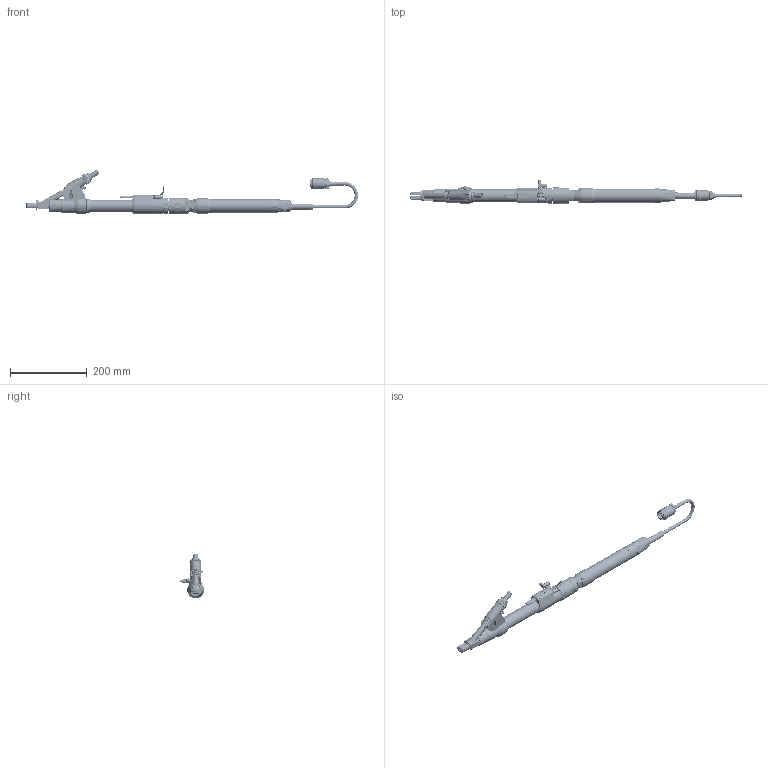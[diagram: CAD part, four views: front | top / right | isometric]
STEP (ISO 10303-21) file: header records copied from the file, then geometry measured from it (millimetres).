
FILE_DESCRIPTION(/* description */ (''),/* implementation_level */ '2;1');
FILE_NAME(/* name */ 'G:\Modelle für Marketing\3Ds Parasolid\3D_Parasolid_handheld_screwdriver_for_screws_HSF_series.x_b.ipt.stp',/* time_stamp */ '2016-07-28T11:55:37+02:00',/* author */ ('Wolf'),/* organization */ (''),/* preprocessor_version */ 'ST-DEVELOPER v15.2',/* originating_system */ 'Autodesk Inventor 2014',/* authorisation */ '');
FILE_SCHEMA (('AUTOMOTIVE_DESIGN { 1 0 10303 214 3 1 1 }'));
Length unit declared in the file: millimetre
Products named in the file (1): 3D_Parasolid_handheld_screwdriver_for_screws_HSF_series.x_b
Bounding box: 867.21 x 62.97 x 116.97 mm (x, y, z)
Volume: 466871.2 mm3; surface area: 346943 mm2
Topology: 22 solids, 89 shells, 6799 faces, 18522 edges, 11874 vertices
Faces by surface type: plane 3175, cylinder 1868, bspline 680, cone 672, torus 337, sphere 67
Full cylindrical faces by diameter (mm): 0.6 x8, 0.74 x8, 0.8 x11, 1 x4, 1.02 x16, 1.1 x4, 1.16 x2, 1.17 x8, 1.23 x8, 1.3 x6, 1.5 x11, 1.6 x11, 1.69 x4, 1.97 x16, 2 x8, 2.04 x8, 2.06 x4, 2.3 x3, 2.4 x4, 2.459 x3, 2.5 x15, 2.51 x2, 2.56 x20, 2.58 x8, 2.6 x8, 2.69 x8, 2.8 x3, 2.85 x8, 2.9 x2, 2.95 x8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
Entity records: 250674 total; most frequent: CARTESIAN_POINT 84279, DIRECTION 33786, ORIENTED_EDGE 32874, EDGE_CURVE 16465, AXIS2_PLACEMENT_3D 13891, VERTEX_POINT 11239, EDGE_LOOP 8911, ADVANCED_FACE 6795
